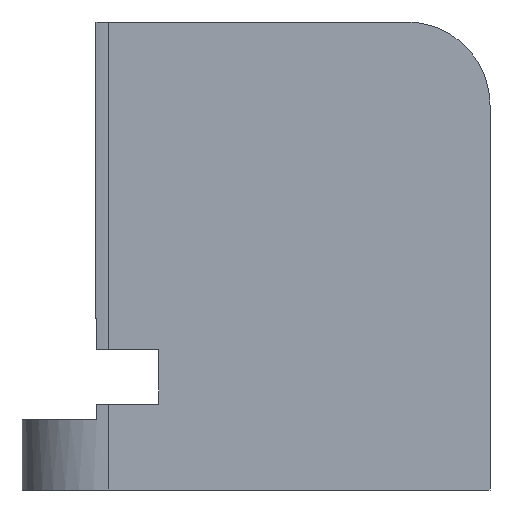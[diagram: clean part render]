
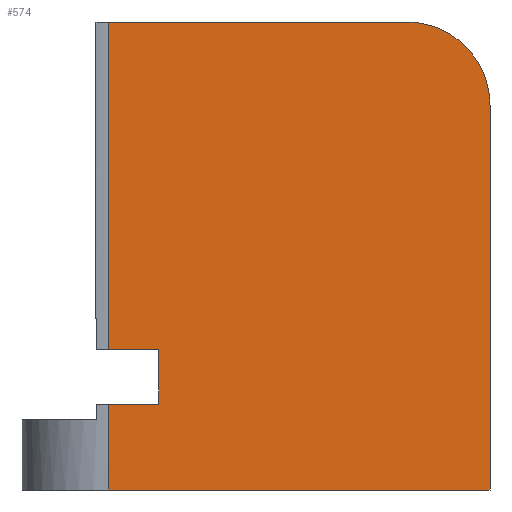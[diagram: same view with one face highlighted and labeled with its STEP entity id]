
A CAD part, front view. The second image highlights one B-rep face of the part: STEP entity #574.
In plain terms, the highlighted planar face has unit normal (0, -1, 0).
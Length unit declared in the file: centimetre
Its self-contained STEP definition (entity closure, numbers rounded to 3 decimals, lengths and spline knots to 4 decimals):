
#40 = ORIENTED_EDGE ( 'NONE', *, *, #1798, .F. ) ;
#67 = EDGE_CURVE ( 'NONE', #1792, #1657, #946, .T. ) ;
#91 = EDGE_LOOP ( 'NONE', ( #852, #40, #658, #609, #759, #611, #663, #886, #793 ) ) ;
#108 = AXIS2_PLACEMENT_3D ( 'NONE', #499, #920, #1077 ) ;
#112 = CARTESIAN_POINT ( 'NONE',  ( 292.316, 0., 299.8946 ) ) ;
#132 = VERTEX_POINT ( 'NONE', #859 ) ;
#133 = DIRECTION ( 'NONE',  ( 0., 0., -1. ) ) ;
#192 = LINE ( 'NONE', #1237, #997 ) ;
#204 = VECTOR ( 'NONE', #860, 100. ) ;
#206 = VECTOR ( 'NONE', #332, 100. ) ;
#207 = VERTEX_POINT ( 'NONE', #1419 ) ;
#216 = CARTESIAN_POINT ( 'NONE',  ( 1000., 0., 822.3246 ) ) ;
#304 = VECTOR ( 'NONE', #1780, 100. ) ;
#306 = VERTEX_POINT ( 'NONE', #1685 ) ;
#317 = DIRECTION ( 'NONE',  ( 1., 0., 0. ) ) ;
#332 = DIRECTION ( 'NONE',  ( 1., 0., 0. ) ) ;
#354 = EDGE_CURVE ( 'NONE', #671, #1657, #1298, .T. ) ;
#355 = CARTESIAN_POINT ( 'NONE',  ( 822.3246, 0., 1000. ) ) ;
#366 = DIRECTION ( 'NONE',  ( 0., 1., 0. ) ) ;
#402 = LINE ( 'NONE', #1378, #1492 ) ;
#410 = CARTESIAN_POINT ( 'NONE',  ( 79.8381, 0., 299.8946 ) ) ;
#425 = VERTEX_POINT ( 'NONE', #937 ) ;
#439 = EDGE_CURVE ( 'NONE', #132, #1584, #1005, .T. ) ;
#458 = LINE ( 'NONE', #1033, #1139 ) ;
#470 = CARTESIAN_POINT ( 'NONE',  ( 185.3975, 0., 0. ) ) ;
#480 = EDGE_CURVE ( 'NONE', #132, #306, #458, .T. ) ;
#499 = CARTESIAN_POINT ( 'NONE',  ( 822.3246, 0., 822.3246 ) ) ;
#503 = EDGE_CURVE ( 'NONE', #1792, #207, #192, .T. ) ;
#534 = CARTESIAN_POINT ( 'NONE',  ( 185.3975, 0., 1000. ) ) ;
#574 = ADVANCED_FACE ( 'NONE', ( #1628 ), #948, .F. ) ;
#609 = ORIENTED_EDGE ( 'NONE', *, *, #480, .F. ) ;
#611 = ORIENTED_EDGE ( 'NONE', *, *, #667, .T. ) ;
#615 = EDGE_CURVE ( 'NONE', #306, #1410, #1054, .T. ) ;
#630 = DIRECTION ( 'NONE',  ( 0., 0., 1. ) ) ;
#650 = CARTESIAN_POINT ( 'NONE',  ( 0., 0., 1000. ) ) ;
#658 = ORIENTED_EDGE ( 'NONE', *, *, #615, .F. ) ;
#663 = ORIENTED_EDGE ( 'NONE', *, *, #987, .F. ) ;
#667 = EDGE_CURVE ( 'NONE', #1584, #425, #1589, .T. ) ;
#671 = VERTEX_POINT ( 'NONE', #216 ) ;
#705 = LINE ( 'NONE', #410, #304 ) ;
#759 = ORIENTED_EDGE ( 'NONE', *, *, #439, .T. ) ;
#793 = ORIENTED_EDGE ( 'NONE', *, *, #67, .F. ) ;
#802 = CARTESIAN_POINT ( 'NONE',  ( 0., 0., 1000. ) ) ;
#852 = ORIENTED_EDGE ( 'NONE', *, *, #503, .T. ) ;
#859 = CARTESIAN_POINT ( 'NONE',  ( 185.3975, 0., 183.5138 ) ) ;
#860 = DIRECTION ( 'NONE',  ( 0., 0., -1. ) ) ;
#871 = CARTESIAN_POINT ( 'NONE',  ( 185.3975, 0., 1000. ) ) ;
#886 = ORIENTED_EDGE ( 'NONE', *, *, #354, .T. ) ;
#900 = CARTESIAN_POINT ( 'NONE',  ( 292.316, 0., 183.5138 ) ) ;
#920 = DIRECTION ( 'NONE',  ( 0., -1., 0. ) ) ;
#937 = CARTESIAN_POINT ( 'NONE',  ( 1000., 0., 0. ) ) ;
#946 = LINE ( 'NONE', #802, #1613 ) ;
#948 = PLANE ( 'NONE',  #965 ) ;
#965 = AXIS2_PLACEMENT_3D ( 'NONE', #650, #366, #1482 ) ;
#987 = EDGE_CURVE ( 'NONE', #671, #425, #402, .T. ) ;
#997 = VECTOR ( 'NONE', #1285, 100. ) ;
#1005 = LINE ( 'NONE', #871, #204 ) ;
#1033 = CARTESIAN_POINT ( 'NONE',  ( 79.8381, 0., 183.5138 ) ) ;
#1054 = LINE ( 'NONE', #900, #1648 ) ;
#1077 = DIRECTION ( 'NONE',  ( 0., 0., 1. ) ) ;
#1116 = DIRECTION ( 'NONE',  ( 1., 0., 0. ) ) ;
#1139 = VECTOR ( 'NONE', #317, 100. ) ;
#1237 = CARTESIAN_POINT ( 'NONE',  ( 185.3975, 0., 1000. ) ) ;
#1285 = DIRECTION ( 'NONE',  ( 0., 0., -1. ) ) ;
#1298 = CIRCLE ( 'NONE', #108, 177.6754 ) ;
#1378 = CARTESIAN_POINT ( 'NONE',  ( 1000., 0., 1000. ) ) ;
#1410 = VERTEX_POINT ( 'NONE', #112 ) ;
#1419 = CARTESIAN_POINT ( 'NONE',  ( 185.3975, 0., 299.8946 ) ) ;
#1482 = DIRECTION ( 'NONE',  ( 0., 0., 1. ) ) ;
#1492 = VECTOR ( 'NONE', #133, 100. ) ;
#1584 = VERTEX_POINT ( 'NONE', #470 ) ;
#1589 = LINE ( 'NONE', #1728, #206 ) ;
#1613 = VECTOR ( 'NONE', #1116, 100. ) ;
#1628 = FACE_OUTER_BOUND ( 'NONE', #91, .T. ) ;
#1648 = VECTOR ( 'NONE', #630, 100. ) ;
#1657 = VERTEX_POINT ( 'NONE', #355 ) ;
#1685 = CARTESIAN_POINT ( 'NONE',  ( 292.316, 0., 183.5138 ) ) ;
#1728 = CARTESIAN_POINT ( 'NONE',  ( 0., 0., 0. ) ) ;
#1780 = DIRECTION ( 'NONE',  ( -1., 0., 0. ) ) ;
#1792 = VERTEX_POINT ( 'NONE', #534 ) ;
#1798 = EDGE_CURVE ( 'NONE', #1410, #207, #705, .T. ) ;
